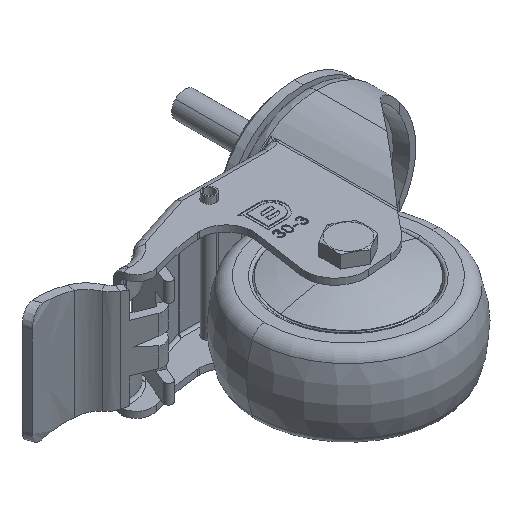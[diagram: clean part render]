
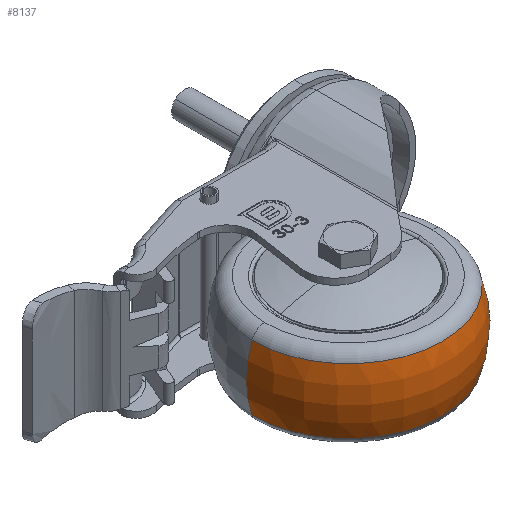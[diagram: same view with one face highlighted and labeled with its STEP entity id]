
A CAD part, isometric view. The second image highlights one B-rep face of the part: STEP entity #8137.
In plain terms, the highlighted toroidal (fillet/blend) face has major radius 0.613 mm and minor radius 36.887 mm.
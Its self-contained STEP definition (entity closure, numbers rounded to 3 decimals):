
#186 = DIRECTION ( 'NONE',  ( 0., 1., 0. ) ) ;
#332 = CARTESIAN_POINT ( 'NONE',  ( -12.146, 0., 0. ) ) ;
#1379 = AXIS2_PLACEMENT_3D ( 'NONE', #5375, #3140, #9097 ) ;
#1637 = EDGE_CURVE ( 'NONE', #20395, #5018, #18087, .T. ) ;
#1768 = CIRCLE ( 'NONE', #6546, 36.887 ) ;
#2321 = DIRECTION ( 'NONE',  ( 1., 0., 0. ) ) ;
#3140 = DIRECTION ( 'NONE',  ( 1., 0., 0. ) ) ;
#3647 = ORIENTED_EDGE ( 'NONE', *, *, #21470, .F. ) ;
#5018 = VERTEX_POINT ( 'NONE', #20445 ) ;
#5295 = CIRCLE ( 'NONE', #16033, 35.443 ) ;
#5375 = CARTESIAN_POINT ( 'NONE',  ( 12.146, 0., 0. ) ) ;
#5474 = DIRECTION ( 'NONE',  ( 0., 0., -1. ) ) ;
#6108 = DIRECTION ( 'NONE',  ( 0., 0., -1. ) ) ;
#6542 = CARTESIAN_POINT ( 'NONE',  ( -12.146, 0., 35.443 ) ) ;
#6546 = AXIS2_PLACEMENT_3D ( 'NONE', #13623, #186, #17740 ) ;
#6766 = VERTEX_POINT ( 'NONE', #6542 ) ;
#7381 = TOROIDAL_SURFACE ( 'NONE', #21305, 0.613, 36.887 ) ;
#8137 = ADVANCED_FACE ( 'NONE', ( #13557 ), #7381, .T. ) ;
#8581 = EDGE_CURVE ( 'NONE', #6766, #22005, #5295, .T. ) ;
#9097 = DIRECTION ( 'NONE',  ( 0., 0., -1. ) ) ;
#9192 = CARTESIAN_POINT ( 'NONE',  ( -12.146, 0., -35.443 ) ) ;
#9569 = DIRECTION ( 'NONE',  ( 1., 0., 0. ) ) ;
#9672 = ORIENTED_EDGE ( 'NONE', *, *, #8581, .T. ) ;
#9793 = DIRECTION ( 'NONE',  ( 0., 0., -1. ) ) ;
#11990 = AXIS2_PLACEMENT_3D ( 'NONE', #15574, #23177, #6108 ) ;
#12387 = CARTESIAN_POINT ( 'NONE',  ( 12.146, 0., 35.443 ) ) ;
#13557 = FACE_OUTER_BOUND ( 'NONE', #20662, .T. ) ;
#13623 = CARTESIAN_POINT ( 'NONE',  ( 0., 0., 0.613 ) ) ;
#15574 = CARTESIAN_POINT ( 'NONE',  ( 0., 0., -0.613 ) ) ;
#16033 = AXIS2_PLACEMENT_3D ( 'NONE', #332, #2321, #9793 ) ;
#17740 = DIRECTION ( 'NONE',  ( 0., 0., 1. ) ) ;
#18087 = CIRCLE ( 'NONE', #1379, 35.443 ) ;
#18280 = ORIENTED_EDGE ( 'NONE', *, *, #19745, .T. ) ;
#18800 = CARTESIAN_POINT ( 'NONE',  ( 0., 0., 0. ) ) ;
#19745 = EDGE_CURVE ( 'NONE', #22005, #5018, #21954, .T. ) ;
#20395 = VERTEX_POINT ( 'NONE', #12387 ) ;
#20445 = CARTESIAN_POINT ( 'NONE',  ( 12.146, 0., -35.443 ) ) ;
#20662 = EDGE_LOOP ( 'NONE', ( #3647, #9672, #18280, #22691 ) ) ;
#21305 = AXIS2_PLACEMENT_3D ( 'NONE', #18800, #9569, #5474 ) ;
#21470 = EDGE_CURVE ( 'NONE', #6766, #20395, #1768, .T. ) ;
#21954 = CIRCLE ( 'NONE', #11990, 36.887 ) ;
#22005 = VERTEX_POINT ( 'NONE', #9192 ) ;
#22691 = ORIENTED_EDGE ( 'NONE', *, *, #1637, .F. ) ;
#23177 = DIRECTION ( 'NONE',  ( 0., -1., 0. ) ) ;
